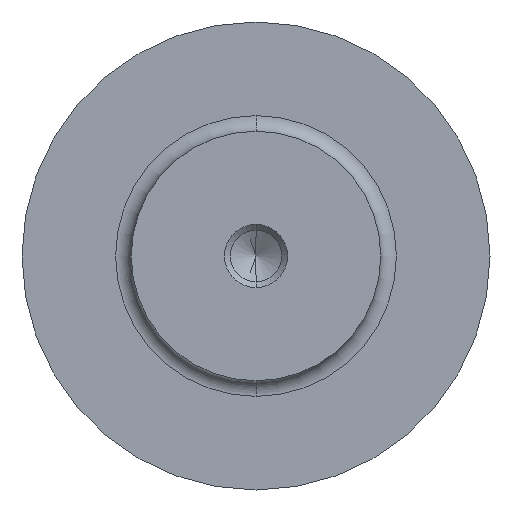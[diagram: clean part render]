
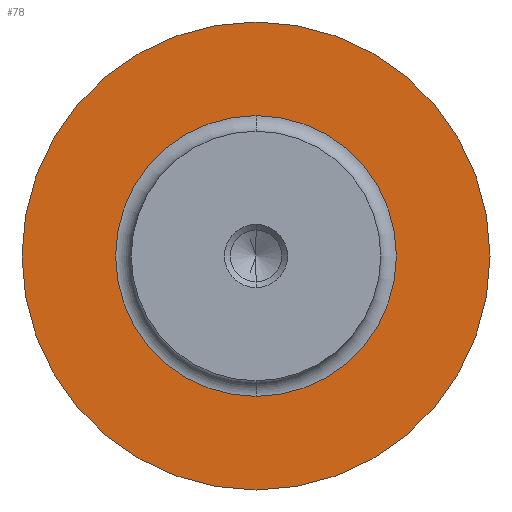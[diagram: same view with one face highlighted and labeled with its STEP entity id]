
A CAD part, front view. The second image highlights one B-rep face of the part: STEP entity #78.
In plain terms, the highlighted planar face has unit normal (0, -1, 0).
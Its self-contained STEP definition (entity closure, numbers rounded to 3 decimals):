
#33 = ORIENTED_EDGE ( 'NONE', *, *, #311, .T. ) ;
#43 = DIRECTION ( 'NONE',  ( 0., 0., 1. ) ) ;
#53 = ORIENTED_EDGE ( 'NONE', *, *, #195, .T. ) ;
#78 = ADVANCED_FACE ( 'NONE', ( #329, #285 ), #176, .F. ) ;
#85 = VERTEX_POINT ( 'NONE', #96 ) ;
#96 = CARTESIAN_POINT ( 'NONE',  ( 0., 19.003, 9. ) ) ;
#98 = AXIS2_PLACEMENT_3D ( 'NONE', #430, #434, #43 ) ;
#99 = DIRECTION ( 'NONE',  ( 0., 0., 1. ) ) ;
#102 = CARTESIAN_POINT ( 'NONE',  ( 0., 19.003, 15. ) ) ;
#118 = EDGE_LOOP ( 'NONE', ( #53, #33 ) ) ;
#123 = AXIS2_PLACEMENT_3D ( 'NONE', #224, #343, #456 ) ;
#138 = AXIS2_PLACEMENT_3D ( 'NONE', #316, #167, #320 ) ;
#142 = CARTESIAN_POINT ( 'NONE',  ( 0., 19.003, 0. ) ) ;
#167 = DIRECTION ( 'NONE',  ( 0., -1., 0. ) ) ;
#170 = ORIENTED_EDGE ( 'NONE', *, *, #352, .T. ) ;
#176 = PLANE ( 'NONE',  #240 ) ;
#181 = CIRCLE ( 'NONE', #98, 9. ) ;
#195 = EDGE_CURVE ( 'NONE', #85, #233, #452, .T. ) ;
#202 = EDGE_LOOP ( 'NONE', ( #170, #230 ) ) ;
#206 = CARTESIAN_POINT ( 'NONE',  ( 0., 19.003, 15. ) ) ;
#224 = CARTESIAN_POINT ( 'NONE',  ( 0., 19.003, 0. ) ) ;
#230 = ORIENTED_EDGE ( 'NONE', *, *, #408, .T. ) ;
#233 = VERTEX_POINT ( 'NONE', #451 ) ;
#240 = AXIS2_PLACEMENT_3D ( 'NONE', #102, #442, #99 ) ;
#257 = DIRECTION ( 'NONE',  ( 0., -1., 0. ) ) ;
#276 = VERTEX_POINT ( 'NONE', #206 ) ;
#285 = FACE_OUTER_BOUND ( 'NONE', #202, .T. ) ;
#304 = DIRECTION ( 'NONE',  ( 0., 0., -1. ) ) ;
#308 = CIRCLE ( 'NONE', #138, 15. ) ;
#311 = EDGE_CURVE ( 'NONE', #233, #85, #181, .T. ) ;
#316 = CARTESIAN_POINT ( 'NONE',  ( 0., 19.003, 0. ) ) ;
#320 = DIRECTION ( 'NONE',  ( 0., 0., -1. ) ) ;
#329 = FACE_BOUND ( 'NONE', #118, .T. ) ;
#343 = DIRECTION ( 'NONE',  ( 0., 1., 0. ) ) ;
#352 = EDGE_CURVE ( 'NONE', #459, #276, #308, .T. ) ;
#408 = EDGE_CURVE ( 'NONE', #276, #459, #466, .T. ) ;
#414 = CARTESIAN_POINT ( 'NONE',  ( 0., 19.003, -15. ) ) ;
#430 = CARTESIAN_POINT ( 'NONE',  ( 0., 19.003, 0. ) ) ;
#434 = DIRECTION ( 'NONE',  ( 0., 1., 0. ) ) ;
#442 = DIRECTION ( 'NONE',  ( 0., 1., 0. ) ) ;
#451 = CARTESIAN_POINT ( 'NONE',  ( 0., 19.003, -9. ) ) ;
#452 = CIRCLE ( 'NONE', #123, 9. ) ;
#456 = DIRECTION ( 'NONE',  ( 0., 0., 1. ) ) ;
#459 = VERTEX_POINT ( 'NONE', #414 ) ;
#466 = CIRCLE ( 'NONE', #506, 15. ) ;
#506 = AXIS2_PLACEMENT_3D ( 'NONE', #142, #257, #304 ) ;
